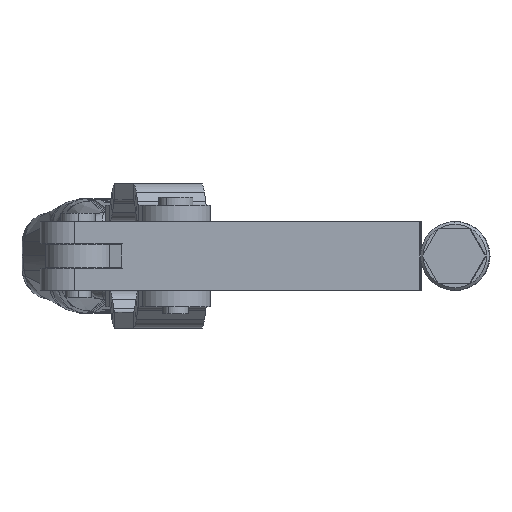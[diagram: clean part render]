
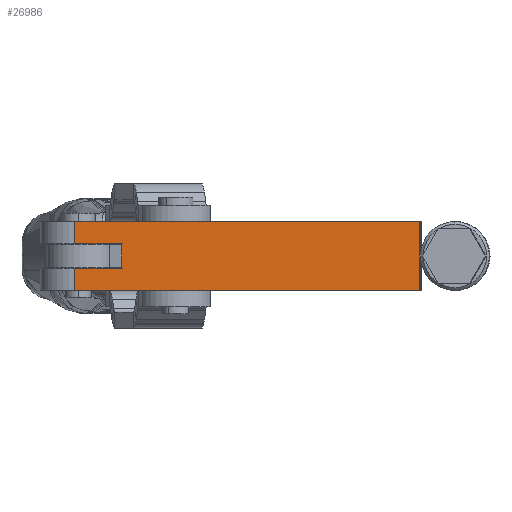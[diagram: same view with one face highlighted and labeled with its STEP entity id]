
A CAD part, front view. The second image highlights one B-rep face of the part: STEP entity #26986.
In plain terms, the highlighted planar face has unit normal (0, -1, 0).
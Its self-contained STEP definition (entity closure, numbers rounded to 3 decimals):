
#113 = DIRECTION ( 'NONE',  ( 0., 0., -1. ) ) ;
#216 = EDGE_CURVE ( 'NONE', #4010, #9844, #31917, .T. ) ;
#1303 = DIRECTION ( 'NONE',  ( 0., 0., -1. ) ) ;
#1584 = CARTESIAN_POINT ( 'NONE',  ( -6.35, -6.35, -6.35 ) ) ;
#2233 = CARTESIAN_POINT ( 'NONE',  ( -6.35, -6.35, 6.35 ) ) ;
#2323 = VERTEX_POINT ( 'NONE', #20205 ) ;
#2376 = ORIENTED_EDGE ( 'NONE', *, *, #20348, .T. ) ;
#3088 = EDGE_CURVE ( 'NONE', #26380, #23259, #9781, .T. ) ;
#3431 = DIRECTION ( 'NONE',  ( 1., 0., 0. ) ) ;
#4010 = VERTEX_POINT ( 'NONE', #9838 ) ;
#4749 = DIRECTION ( 'NONE',  ( 0., 0., -1. ) ) ;
#4950 = CARTESIAN_POINT ( 'NONE',  ( -6.35, -6.35, 6.35 ) ) ;
#5010 = CARTESIAN_POINT ( 'NONE',  ( -70., -6.35, 6.35 ) ) ;
#5312 = LINE ( 'NONE', #24581, #24259 ) ;
#6406 = CARTESIAN_POINT ( 'NONE',  ( -6.35, -6.35, 6.35 ) ) ;
#7284 = DIRECTION ( 'NONE',  ( 1., 0., 0. ) ) ;
#7990 = LINE ( 'NONE', #15767, #19617 ) ;
#8041 = CARTESIAN_POINT ( 'NONE',  ( -15., -6.35, -2.25 ) ) ;
#8823 = CARTESIAN_POINT ( 'NONE',  ( -70., -6.35, -6.35 ) ) ;
#8989 = CARTESIAN_POINT ( 'NONE',  ( -70., -6.35, -6.35 ) ) ;
#9748 = EDGE_CURVE ( 'NONE', #2323, #23259, #7990, .T. ) ;
#9781 = LINE ( 'NONE', #6406, #22179 ) ;
#9838 = CARTESIAN_POINT ( 'NONE',  ( -6.35, -6.35, -2.25 ) ) ;
#9844 = VERTEX_POINT ( 'NONE', #1584 ) ;
#10347 = CARTESIAN_POINT ( 'NONE',  ( -70., -6.35, 6.35 ) ) ;
#10563 = CARTESIAN_POINT ( 'NONE',  ( -6.35, -6.35, 2.25 ) ) ;
#10899 = CARTESIAN_POINT ( 'NONE',  ( -70., -6.35, 6.35 ) ) ;
#10901 = VECTOR ( 'NONE', #113, 1000. ) ;
#11152 = PLANE ( 'NONE',  #14149 ) ;
#12303 = ORIENTED_EDGE ( 'NONE', *, *, #9748, .T. ) ;
#12916 = EDGE_LOOP ( 'NONE', ( #29028, #2376, #12303, #13600, #17927, #20579, #29312, #31232 ) ) ;
#12936 = VECTOR ( 'NONE', #4749, 1000. ) ;
#13600 = ORIENTED_EDGE ( 'NONE', *, *, #3088, .F. ) ;
#13637 = DIRECTION ( 'NONE',  ( 0., 0., 1. ) ) ;
#14149 = AXIS2_PLACEMENT_3D ( 'NONE', #18538, #28506, #13637 ) ;
#14717 = EDGE_CURVE ( 'NONE', #31425, #25397, #18268, .T. ) ;
#15767 = CARTESIAN_POINT ( 'NONE',  ( -15., -6.35, 2.25 ) ) ;
#16499 = VECTOR ( 'NONE', #31293, 1000. ) ;
#17927 = ORIENTED_EDGE ( 'NONE', *, *, #21375, .F. ) ;
#18268 = LINE ( 'NONE', #5010, #10901 ) ;
#18538 = CARTESIAN_POINT ( 'NONE',  ( -70., -6.35, 6.35 ) ) ;
#19352 = FACE_OUTER_BOUND ( 'NONE', #12916, .T. ) ;
#19617 = VECTOR ( 'NONE', #3431, 1000. ) ;
#20205 = CARTESIAN_POINT ( 'NONE',  ( -15., -6.35, 2.25 ) ) ;
#20348 = EDGE_CURVE ( 'NONE', #26587, #2323, #30468, .T. ) ;
#20579 = ORIENTED_EDGE ( 'NONE', *, *, #14717, .T. ) ;
#21375 = EDGE_CURVE ( 'NONE', #31425, #26380, #25752, .T. ) ;
#22179 = VECTOR ( 'NONE', #1303, 1000. ) ;
#22874 = DIRECTION ( 'NONE',  ( 0., 0., 1. ) ) ;
#23115 = LINE ( 'NONE', #8989, #16499 ) ;
#23259 = VERTEX_POINT ( 'NONE', #10563 ) ;
#24259 = VECTOR ( 'NONE', #7284, 1000. ) ;
#24581 = CARTESIAN_POINT ( 'NONE',  ( -15., -6.35, -2.25 ) ) ;
#25397 = VERTEX_POINT ( 'NONE', #8823 ) ;
#25724 = DIRECTION ( 'NONE',  ( 1., 0., 0. ) ) ;
#25752 = LINE ( 'NONE', #10899, #31574 ) ;
#26231 = CARTESIAN_POINT ( 'NONE',  ( -15., -6.35, -2.25 ) ) ;
#26380 = VERTEX_POINT ( 'NONE', #4950 ) ;
#26587 = VERTEX_POINT ( 'NONE', #26231 ) ;
#26986 = ADVANCED_FACE ( 'NONE', ( #19352 ), #11152, .F. ) ;
#28506 = DIRECTION ( 'NONE',  ( 0., 1., 0. ) ) ;
#29028 = ORIENTED_EDGE ( 'NONE', *, *, #29261, .F. ) ;
#29261 = EDGE_CURVE ( 'NONE', #26587, #4010, #5312, .T. ) ;
#29312 = ORIENTED_EDGE ( 'NONE', *, *, #29688, .T. ) ;
#29688 = EDGE_CURVE ( 'NONE', #25397, #9844, #23115, .T. ) ;
#30468 = LINE ( 'NONE', #8041, #31242 ) ;
#31232 = ORIENTED_EDGE ( 'NONE', *, *, #216, .F. ) ;
#31242 = VECTOR ( 'NONE', #22874, 1000. ) ;
#31293 = DIRECTION ( 'NONE',  ( 1., 0., 0. ) ) ;
#31425 = VERTEX_POINT ( 'NONE', #10347 ) ;
#31574 = VECTOR ( 'NONE', #25724, 1000. ) ;
#31917 = LINE ( 'NONE', #2233, #12936 ) ;
